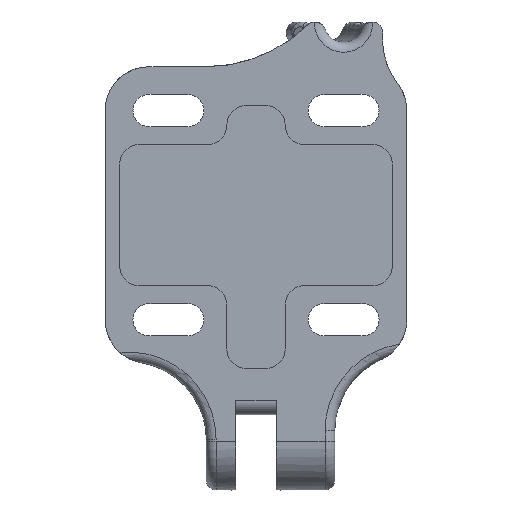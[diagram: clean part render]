
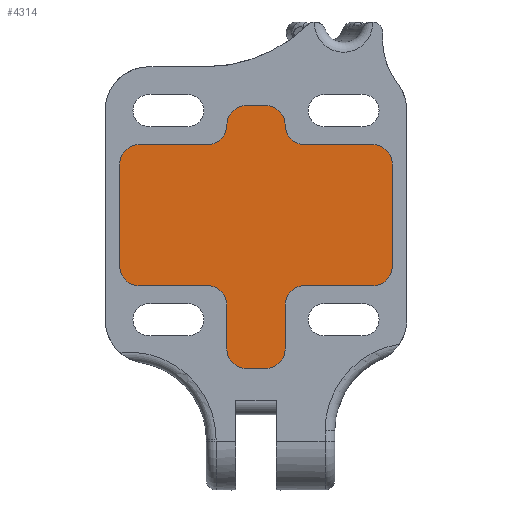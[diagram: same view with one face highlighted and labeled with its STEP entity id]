
A CAD part, front view. The second image highlights one B-rep face of the part: STEP entity #4314.
In plain terms, the highlighted planar face has unit normal (0, -1, 0).
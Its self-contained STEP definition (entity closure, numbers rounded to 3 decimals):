
#72=PLANE('',#4663);
#149=LINE('',#6555,#387);
#153=LINE('',#6567,#391);
#157=LINE('',#6579,#395);
#161=LINE('',#6591,#399);
#165=LINE('',#6603,#403);
#169=LINE('',#6615,#407);
#173=LINE('',#6627,#411);
#178=LINE('',#6645,#416);
#183=LINE('',#6663,#421);
#187=LINE('',#6674,#425);
#387=VECTOR('',#5070,1.);
#391=VECTOR('',#5082,1.);
#395=VECTOR('',#5094,1.);
#399=VECTOR('',#5106,1.);
#403=VECTOR('',#5118,1.);
#407=VECTOR('',#5130,1.);
#411=VECTOR('',#5142,1.);
#416=VECTOR('',#5161,1.);
#421=VECTOR('',#5180,1.);
#425=VECTOR('',#5192,1.);
#709=CIRCLE('',#4571,2.);
#711=CIRCLE('',#4575,2.);
#713=CIRCLE('',#4579,2.);
#715=CIRCLE('',#4583,2.);
#717=CIRCLE('',#4587,2.);
#719=CIRCLE('',#4591,2.);
#721=CIRCLE('',#4595,2.);
#723=CIRCLE('',#4599,2.);
#725=CIRCLE('',#4602,2.);
#727=CIRCLE('',#4606,2.);
#729=CIRCLE('',#4609,2.);
#731=CIRCLE('',#4613,2.);
#985=FACE_OUTER_BOUND('',#1246,.T.);
#1246=EDGE_LOOP('',(#3106,#3107,#3108,#3109,#3110,#3111,#3112,#3113,#3114,
#3115,#3116,#3117,#3118,#3119,#3120,#3121,#3122,#3123,#3124,#3125,#3126,
#3127));
#1744=VERTEX_POINT('',#6545);
#1745=VERTEX_POINT('',#6546);
#1748=VERTEX_POINT('',#6554);
#1750=VERTEX_POINT('',#6560);
#1752=VERTEX_POINT('',#6566);
#1754=VERTEX_POINT('',#6572);
#1756=VERTEX_POINT('',#6578);
#1758=VERTEX_POINT('',#6584);
#1760=VERTEX_POINT('',#6590);
#1762=VERTEX_POINT('',#6596);
#1764=VERTEX_POINT('',#6602);
#1766=VERTEX_POINT('',#6608);
#1768=VERTEX_POINT('',#6614);
#1770=VERTEX_POINT('',#6620);
#1772=VERTEX_POINT('',#6626);
#1774=VERTEX_POINT('',#6632);
#1776=VERTEX_POINT('',#6638);
#1778=VERTEX_POINT('',#6644);
#1780=VERTEX_POINT('',#6650);
#1782=VERTEX_POINT('',#6656);
#1784=VERTEX_POINT('',#6662);
#1786=VERTEX_POINT('',#6668);
#2185=EDGE_CURVE('',#1744,#1745,#709,.T.);
#2189=EDGE_CURVE('',#1748,#1744,#149,.F.);
#2192=EDGE_CURVE('',#1750,#1748,#711,.F.);
#2195=EDGE_CURVE('',#1752,#1750,#153,.F.);
#2198=EDGE_CURVE('',#1754,#1752,#713,.T.);
#2201=EDGE_CURVE('',#1756,#1754,#157,.F.);
#2204=EDGE_CURVE('',#1758,#1756,#715,.T.);
#2207=EDGE_CURVE('',#1760,#1758,#161,.F.);
#2210=EDGE_CURVE('',#1762,#1760,#717,.F.);
#2213=EDGE_CURVE('',#1764,#1762,#165,.F.);
#2216=EDGE_CURVE('',#1766,#1764,#719,.T.);
#2219=EDGE_CURVE('',#1768,#1766,#169,.F.);
#2222=EDGE_CURVE('',#1770,#1768,#721,.T.);
#2225=EDGE_CURVE('',#1772,#1770,#173,.F.);
#2228=EDGE_CURVE('',#1774,#1772,#723,.F.);
#2231=EDGE_CURVE('',#1776,#1774,#725,.T.);
#2234=EDGE_CURVE('',#1778,#1776,#178,.F.);
#2237=EDGE_CURVE('',#1780,#1778,#727,.T.);
#2240=EDGE_CURVE('',#1782,#1780,#729,.F.);
#2243=EDGE_CURVE('',#1784,#1782,#183,.F.);
#2246=EDGE_CURVE('',#1786,#1784,#731,.T.);
#2249=EDGE_CURVE('',#1745,#1786,#187,.F.);
#3106=ORIENTED_EDGE('',*,*,#2249,.F.);
#3107=ORIENTED_EDGE('',*,*,#2185,.F.);
#3108=ORIENTED_EDGE('',*,*,#2189,.F.);
#3109=ORIENTED_EDGE('',*,*,#2192,.F.);
#3110=ORIENTED_EDGE('',*,*,#2195,.F.);
#3111=ORIENTED_EDGE('',*,*,#2198,.F.);
#3112=ORIENTED_EDGE('',*,*,#2201,.F.);
#3113=ORIENTED_EDGE('',*,*,#2204,.F.);
#3114=ORIENTED_EDGE('',*,*,#2207,.F.);
#3115=ORIENTED_EDGE('',*,*,#2210,.F.);
#3116=ORIENTED_EDGE('',*,*,#2213,.F.);
#3117=ORIENTED_EDGE('',*,*,#2216,.F.);
#3118=ORIENTED_EDGE('',*,*,#2219,.F.);
#3119=ORIENTED_EDGE('',*,*,#2222,.F.);
#3120=ORIENTED_EDGE('',*,*,#2225,.F.);
#3121=ORIENTED_EDGE('',*,*,#2228,.F.);
#3122=ORIENTED_EDGE('',*,*,#2231,.F.);
#3123=ORIENTED_EDGE('',*,*,#2234,.F.);
#3124=ORIENTED_EDGE('',*,*,#2237,.F.);
#3125=ORIENTED_EDGE('',*,*,#2240,.F.);
#3126=ORIENTED_EDGE('',*,*,#2243,.F.);
#3127=ORIENTED_EDGE('',*,*,#2246,.F.);
#4314=ADVANCED_FACE('',(#985),#72,.F.);
#4571=AXIS2_PLACEMENT_3D('',#6547,#5062,#5063);
#4575=AXIS2_PLACEMENT_3D('',#6561,#5075,#5076);
#4579=AXIS2_PLACEMENT_3D('',#6573,#5087,#5088);
#4583=AXIS2_PLACEMENT_3D('',#6585,#5099,#5100);
#4587=AXIS2_PLACEMENT_3D('',#6597,#5111,#5112);
#4591=AXIS2_PLACEMENT_3D('',#6609,#5123,#5124);
#4595=AXIS2_PLACEMENT_3D('',#6621,#5135,#5136);
#4599=AXIS2_PLACEMENT_3D('',#6633,#5147,#5148);
#4602=AXIS2_PLACEMENT_3D('',#6639,#5154,#5155);
#4606=AXIS2_PLACEMENT_3D('',#6651,#5166,#5167);
#4609=AXIS2_PLACEMENT_3D('',#6657,#5173,#5174);
#4613=AXIS2_PLACEMENT_3D('',#6669,#5185,#5186);
#4663=AXIS2_PLACEMENT_3D('',#7371,#5331,#5332);
#5062=DIRECTION('center_axis',(0.,1.,0.));
#5063=DIRECTION('ref_axis',(0.,0.,-1.));
#5070=DIRECTION('',(1.,0.,0.));
#5075=DIRECTION('center_axis',(0.,1.,0.));
#5076=DIRECTION('ref_axis',(0.,0.,-1.));
#5082=DIRECTION('',(0.,0.,-1.));
#5087=DIRECTION('center_axis',(0.,1.,0.));
#5088=DIRECTION('ref_axis',(0.,0.,-1.));
#5094=DIRECTION('',(1.,0.,0.));
#5099=DIRECTION('center_axis',(0.,1.,0.));
#5100=DIRECTION('ref_axis',(0.,0.,-1.));
#5106=DIRECTION('',(0.,0.,1.));
#5111=DIRECTION('center_axis',(0.,1.,0.));
#5112=DIRECTION('ref_axis',(0.,0.,-1.));
#5118=DIRECTION('',(1.,0.,0.));
#5123=DIRECTION('center_axis',(0.,1.,0.));
#5124=DIRECTION('ref_axis',(0.,0.,-1.));
#5130=DIRECTION('',(0.,0.,1.));
#5135=DIRECTION('center_axis',(0.,1.,0.));
#5136=DIRECTION('ref_axis',(0.,0.,-1.));
#5142=DIRECTION('',(-1.,0.,0.));
#5147=DIRECTION('center_axis',(0.,1.,0.));
#5148=DIRECTION('ref_axis',(0.,0.,-1.));
#5154=DIRECTION('center_axis',(0.,1.,0.));
#5155=DIRECTION('ref_axis',(0.,0.,-1.));
#5161=DIRECTION('',(-1.,0.,0.));
#5166=DIRECTION('center_axis',(0.,1.,0.));
#5167=DIRECTION('ref_axis',(0.,0.,-1.));
#5173=DIRECTION('center_axis',(0.,1.,0.));
#5174=DIRECTION('ref_axis',(0.,0.,-1.));
#5180=DIRECTION('',(-1.,0.,0.));
#5185=DIRECTION('center_axis',(0.,1.,0.));
#5186=DIRECTION('ref_axis',(0.,0.,-1.));
#5192=DIRECTION('',(0.,0.,-1.));
#5331=DIRECTION('center_axis',(0.,1.,0.));
#5332=DIRECTION('ref_axis',(-1.,0.,0.));
#6545=CARTESIAN_POINT('',(-12.,-6.4,16.));
#6546=CARTESIAN_POINT('',(-14.,-6.4,18.));
#6547=CARTESIAN_POINT('Origin',(-12.,-6.4,18.));
#6554=CARTESIAN_POINT('',(-5.,-6.4,16.));
#6555=CARTESIAN_POINT('',(-8.5,-6.4,16.));
#6560=CARTESIAN_POINT('',(-3.,-6.4,14.));
#6561=CARTESIAN_POINT('Origin',(-5.,-6.4,14.));
#6566=CARTESIAN_POINT('',(-3.,-6.4,9.5));
#6567=CARTESIAN_POINT('',(-3.,-6.4,11.75));
#6572=CARTESIAN_POINT('',(-1.,-6.4,7.5));
#6573=CARTESIAN_POINT('Origin',(-1.,-6.4,9.5));
#6578=CARTESIAN_POINT('',(1.,-6.4,7.5));
#6579=CARTESIAN_POINT('',(0.,-6.4,7.5));
#6584=CARTESIAN_POINT('',(3.,-6.4,9.5));
#6585=CARTESIAN_POINT('Origin',(1.,-6.4,9.5));
#6590=CARTESIAN_POINT('',(3.,-6.4,14.));
#6591=CARTESIAN_POINT('',(3.,-6.4,11.75));
#6596=CARTESIAN_POINT('',(5.,-6.4,16.));
#6597=CARTESIAN_POINT('Origin',(5.,-6.4,14.));
#6602=CARTESIAN_POINT('',(12.,-6.4,16.));
#6603=CARTESIAN_POINT('',(8.5,-6.4,16.));
#6608=CARTESIAN_POINT('',(14.,-6.4,18.));
#6609=CARTESIAN_POINT('Origin',(12.,-6.4,18.));
#6614=CARTESIAN_POINT('',(14.,-6.4,28.5));
#6615=CARTESIAN_POINT('',(14.,-6.4,23.25));
#6620=CARTESIAN_POINT('',(12.,-6.4,30.5));
#6621=CARTESIAN_POINT('Origin',(12.,-6.4,28.5));
#6626=CARTESIAN_POINT('',(5.,-6.4,30.5));
#6627=CARTESIAN_POINT('',(8.5,-6.4,30.5));
#6632=CARTESIAN_POINT('',(3.,-6.4,32.5));
#6633=CARTESIAN_POINT('Origin',(5.,-6.4,32.5));
#6638=CARTESIAN_POINT('',(1.,-6.4,34.5));
#6639=CARTESIAN_POINT('Origin',(1.,-6.4,32.5));
#6644=CARTESIAN_POINT('',(-1.,-6.4,34.5));
#6645=CARTESIAN_POINT('',(0.,-6.4,34.5));
#6650=CARTESIAN_POINT('',(-3.,-6.4,32.5));
#6651=CARTESIAN_POINT('Origin',(-1.,-6.4,32.5));
#6656=CARTESIAN_POINT('',(-5.,-6.4,30.5));
#6657=CARTESIAN_POINT('Origin',(-5.,-6.4,32.5));
#6662=CARTESIAN_POINT('',(-12.,-6.4,30.5));
#6663=CARTESIAN_POINT('',(-8.5,-6.4,30.5));
#6668=CARTESIAN_POINT('',(-14.,-6.4,28.5));
#6669=CARTESIAN_POINT('Origin',(-12.,-6.4,28.5));
#6674=CARTESIAN_POINT('',(-14.,-6.4,23.25));
#7371=CARTESIAN_POINT('Origin',(0.,-6.4,0.));
